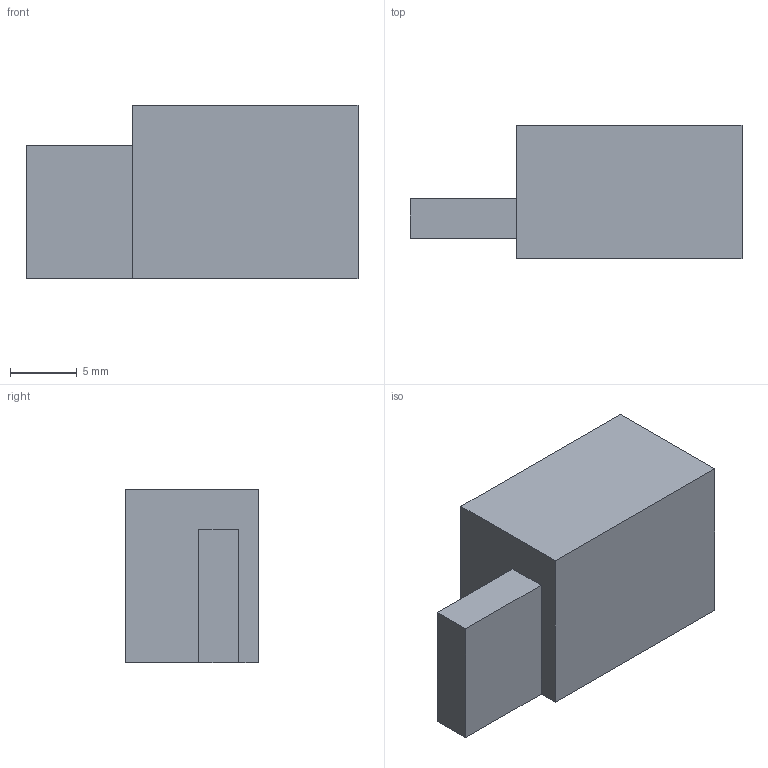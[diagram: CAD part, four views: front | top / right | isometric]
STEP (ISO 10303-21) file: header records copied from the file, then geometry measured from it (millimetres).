
FILE_DESCRIPTION(('Open CASCADE Model'),'2;1');
FILE_NAME('Open CASCADE Shape Model','2026-10-21T17:42:11',('Author'),( 'Open CASCADE'),'Open CASCADE STEP processor 8.0','build123d', 'Unknown');
FILE_SCHEMA(('AUTOMOTIVE_DESIGN { 1 0 10303 214 1 1 1 1 }'));
Length unit declared in the file: millimetre
Products named in the file (1): SOLID
Bounding box: 24.9 x 10 x 13 mm (x, y, z)
Volume: 2437 mm3; surface area: 1245.4 mm2
Topology: 1 solids, 1 shells, 10 faces, 24 edges, 16 vertices
Faces by surface type: plane 10
Entity records: 602 total; most frequent: CARTESIAN_POINT 107, DIRECTION 86, LINE 64, VECTOR 64, ORIENTED_EDGE 48, PCURVE 48, DEFINITIONAL_REPRESENTATION 48, EDGE_CURVE 24
